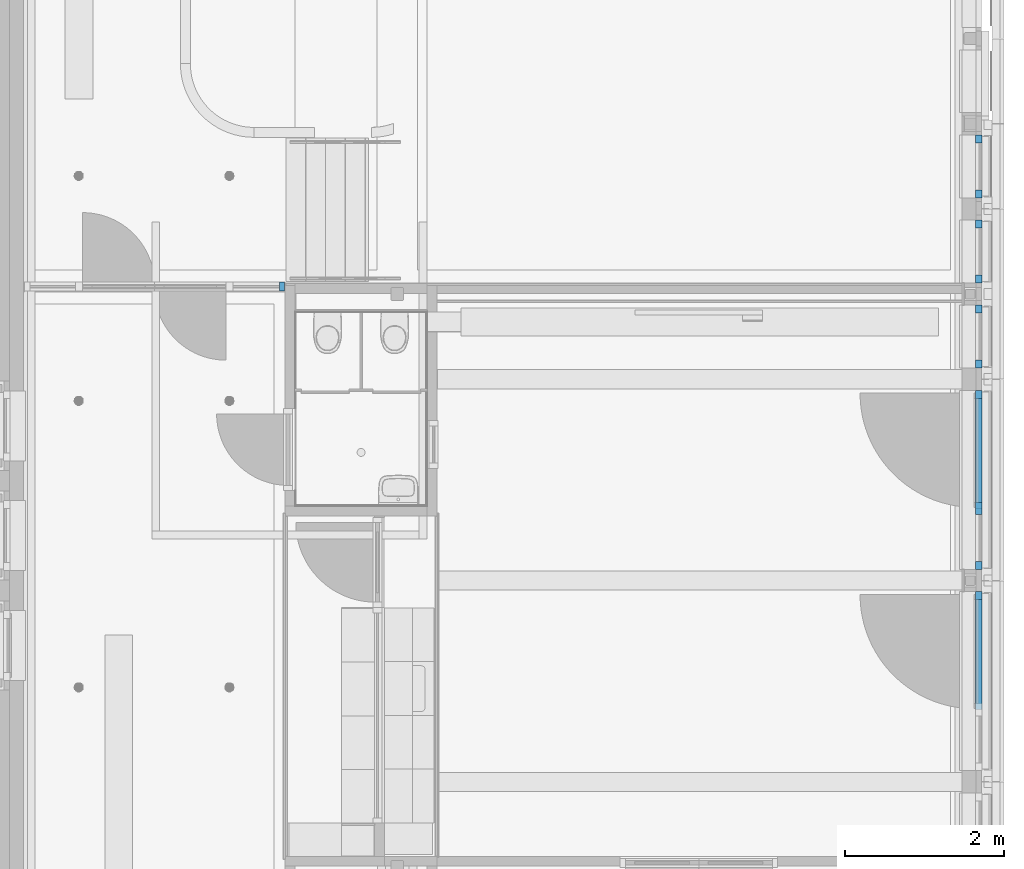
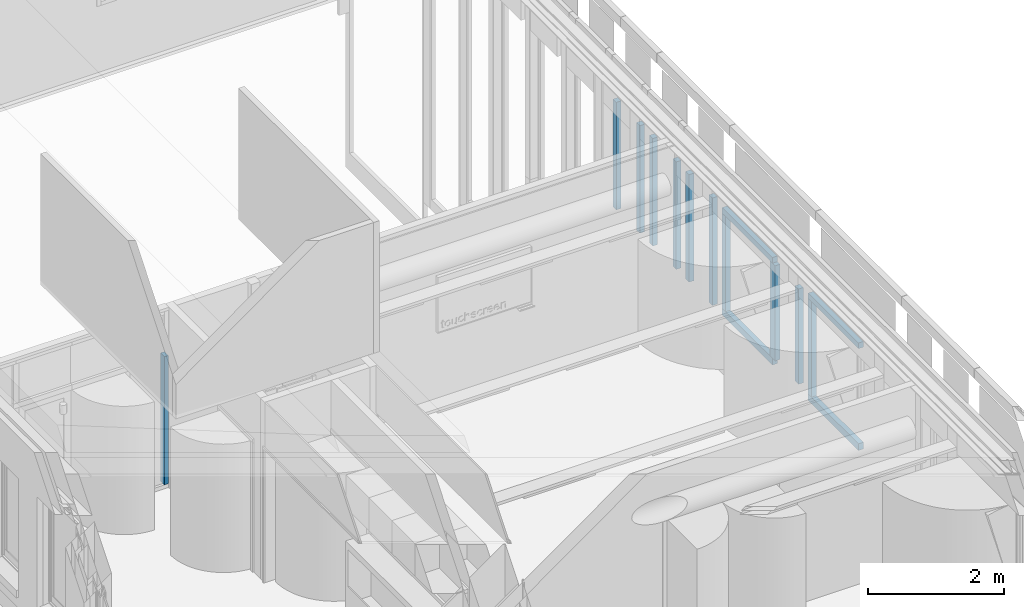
# One storey, part 12 of 128: 15 members, 6 elements without a shape of their own.
"""IFC2X3 building model written with IfcOpenShell, lengths in millimetres."""

from ifc_helpers import new_model, entity, si_unit, converted_unit, derived_unit, direction, frame, origin, origin_2d_with_axis, place, context, subcontext, project, spatial, rectangle, extrude, source, transform, mapped, material, type_object, type_shapes, element, aggregate, save


model = new_model("IFC2X3")

# Units and contexts
model_context = context("Model", 3, precision=0.01, world=origin(), true_north=direction((6.123031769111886e-17, 1.0)))
body_context = subcontext(model_context, "Body", "Model", "MODEL_VIEW")
ifc_project = project(units=[si_unit("LENGTHUNIT", "METRE", prefix="MILLI"), si_unit("AREAUNIT", "SQUARE_METRE"), si_unit("VOLUMEUNIT", "CUBIC_METRE"), converted_unit("PLANEANGLEUNIT", "DEGREE", entity("IfcRatioMeasure", 0.017453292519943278), si_unit("PLANEANGLEUNIT", "RADIAN"), dimensions=[0, 0, 0, 0, 0, 0, 0]), si_unit("MASSUNIT", "GRAM", prefix="KILO"), derived_unit("MASSDENSITYUNIT", [(si_unit("MASSUNIT", "GRAM", prefix="KILO"), 1), (si_unit("LENGTHUNIT", "METRE"), -3)]), derived_unit("IONCONCENTRATIONUNIT", [(si_unit("MASSUNIT", "GRAM", prefix="KILO"), 1), (si_unit("LENGTHUNIT", "METRE"), -3)]), derived_unit("MOMENTOFINERTIAUNIT", [(si_unit("LENGTHUNIT", "METRE"), 4)]), si_unit("TIMEUNIT", "SECOND"), si_unit("FREQUENCYUNIT", "HERTZ"), si_unit("THERMODYNAMICTEMPERATUREUNIT", "DEGREE_CELSIUS"), derived_unit("THERMALTRANSMITTANCEUNIT", [(si_unit("MASSUNIT", "GRAM", prefix="KILO"), 1), (si_unit("THERMODYNAMICTEMPERATUREUNIT", "KELVIN"), -1), (si_unit("TIMEUNIT", "SECOND"), -3)]), derived_unit("THERMALCONDUCTANCEUNIT", [(si_unit("MASSUNIT", "GRAM", prefix="KILO"), 1), (si_unit("THERMODYNAMICTEMPERATUREUNIT", "KELVIN"), -1), (si_unit("TIMEUNIT", "SECOND"), -3), (si_unit("LENGTHUNIT", "METRE"), 1)]), derived_unit("VOLUMETRICFLOWRATEUNIT", [(si_unit("LENGTHUNIT", "METRE"), 3), (si_unit("TIMEUNIT", "SECOND"), -1)]), derived_unit("MASSFLOWRATEUNIT", [(si_unit("MASSUNIT", "GRAM", prefix="KILO"), 1), (si_unit("TIMEUNIT", "SECOND"), -1)]), derived_unit("ROTATIONALFREQUENCYUNIT", [(si_unit("TIMEUNIT", "SECOND"), -1)]), si_unit("ELECTRICCURRENTUNIT", "AMPERE"), si_unit("ELECTRICVOLTAGEUNIT", "VOLT"), si_unit("POWERUNIT", "WATT"), si_unit("FORCEUNIT", "NEWTON", prefix="KILO"), si_unit("ILLUMINANCEUNIT", "LUX"), si_unit("LUMINOUSFLUXUNIT", "LUMEN"), si_unit("LUMINOUSINTENSITYUNIT", "CANDELA"), derived_unit("USERDEFINED", [(si_unit("MASSUNIT", "GRAM", prefix="KILO"), -1), (si_unit("LENGTHUNIT", "METRE"), -2), (si_unit("TIMEUNIT", "SECOND"), 3), (si_unit("LUMINOUSFLUXUNIT", "LUMEN"), 1)]), derived_unit("USERDEFINED", [(si_unit("MASSUNIT", "GRAM", prefix="KILO"), 1), (si_unit("TIMEUNIT", "SECOND"), -3), (si_unit("LENGTHUNIT", "METRE"), 3), (si_unit("ELECTRICCURRENTUNIT", "AMPERE"), -2)]), derived_unit("SOUNDPOWERUNIT", [(si_unit("MASSUNIT", "GRAM", prefix="KILO"), 1), (si_unit("TIMEUNIT", "SECOND"), -3), (si_unit("LENGTHUNIT", "METRE"), 2)]), derived_unit("SOUNDPRESSUREUNIT", [(si_unit("MASSUNIT", "GRAM", prefix="KILO"), 1), (si_unit("LENGTHUNIT", "METRE"), -1), (si_unit("TIMEUNIT", "SECOND"), -2)]), derived_unit("LINEARVELOCITYUNIT", [(si_unit("LENGTHUNIT", "METRE"), 1), (si_unit("TIMEUNIT", "SECOND"), -1)]), si_unit("PRESSUREUNIT", "PASCAL"), derived_unit("USERDEFINED", [(si_unit("MASSUNIT", "GRAM", prefix="KILO"), 1), (si_unit("LENGTHUNIT", "METRE"), -2), (si_unit("TIMEUNIT", "SECOND"), -2)]), derived_unit("LINEARFORCEUNIT", [(si_unit("MASSUNIT", "GRAM", prefix="KILO"), 1), (si_unit("TIMEUNIT", "SECOND"), -2)]), derived_unit("PLANARFORCEUNIT", [(si_unit("MASSUNIT", "GRAM", prefix="KILO"), 1), (si_unit("LENGTHUNIT", "METRE"), -1), (si_unit("TIMEUNIT", "SECOND"), -2)]), derived_unit("SPECIFICHEATCAPACITYUNIT", [(si_unit("THERMODYNAMICTEMPERATUREUNIT", "KELVIN"), -1), (si_unit("LENGTHUNIT", "METRE"), 2), (si_unit("TIMEUNIT", "SECOND"), -2)]), derived_unit("HEATINGVALUEUNIT", [(si_unit("LENGTHUNIT", "METRE"), 2), (si_unit("TIMEUNIT", "SECOND"), -2)]), derived_unit("VAPORPERMEABILITYUNIT", [(si_unit("LENGTHUNIT", "METRE"), -1), (si_unit("TIMEUNIT", "SECOND"), 1)]), derived_unit("DYNAMICVISCOSITYUNIT", [(si_unit("MASSUNIT", "GRAM", prefix="KILO"), 1), (si_unit("TIMEUNIT", "SECOND"), -1), (si_unit("LENGTHUNIT", "METRE"), -1)]), derived_unit("THERMALEXPANSIONCOEFFICIENTUNIT", [(si_unit("THERMODYNAMICTEMPERATUREUNIT", "KELVIN"), -1)]), derived_unit("MODULUSOFELASTICITYUNIT", [(si_unit("MASSUNIT", "GRAM", prefix="KILO"), 1), (si_unit("LENGTHUNIT", "METRE"), -1), (si_unit("TIMEUNIT", "SECOND"), -2)]), derived_unit("ISOTHERMALMOISTURECAPACITYUNIT", [(si_unit("LENGTHUNIT", "METRE"), 3), (si_unit("MASSUNIT", "GRAM", prefix="KILO"), -1)]), derived_unit("MOISTUREDIFFUSIVITYUNIT", [(si_unit("TIMEUNIT", "SECOND"), -1), (si_unit("LENGTHUNIT", "METRE"), 2)])], contexts=[model_context])

# Site, building, storey
site_placement = place(None, frame((0.0, 300.0, 0.0)))
site = spatial("IfcSite", under=ifc_project, at=site_placement, Name="<Kadastrale nummers>", CompositionType="ELEMENT")
building_placement = place(site_placement, origin())
building = spatial("IfcBuilding", under=site, at=building_placement, CompositionType="ELEMENT")
storey_placement = place(building_placement, frame((0.0, 0.0, 3560.0000331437)))
storey = spatial("IfcBuildingStorey", under=building, at=storey_placement, Name="01 eerste verdieping", CompositionType="ELEMENT", Elevation=3560.0000331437)

# Curtain wall, member
curtain_wall_type_1 = type_object("IfcCurtainWallType", Name="Curtain Wall:Merk H12", PredefinedType="NOTDEFINED")
curtain_wall_1_placement = place(storey_placement, frame((0.0, 0.0, -3560.0000331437)))
curtain_wall_1 = element("IfcCurtainWall", 1, at=curtain_wall_1_placement, inside=storey, type_object=curtain_wall_type_1, Name="Curtain Wall:Merk H12", ObjectType="Curtain Wall:Merk H12")
ifc_material_1 = material(Name="ISR_HPL")
member_type_1 = type_object("IfcMemberType", Name="Rectangular Mullion:31_CWM_067x114", PredefinedType="MULLION", material=ifc_material_1)
shared_shape_1 = source(origin(), body_context, "Body", "SweptSolid", [
    extrude(rectangle(XDim=113.99999999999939, YDim=67.0, at=origin_2d_with_axis()), frame((-33.5, -57.0, -2301.0), z_axis=(0.0, 0.0, 1.0), x_axis=(0.0, -1.0, 0.0)), (0.0, 0.0, 1.0), 2301.0000000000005),
])
type_shapes(member_type_1, [shared_shape_1])
member_1_placement = place(curtain_wall_1_placement, frame((39985.0, 30936.0, 3717.0000350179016), z_axis=(0.0, 0.0, -1.0), x_axis=(1.0, 0.0, 0.0)))
member_1 = element("IfcMember", 2, at=member_1_placement, type_object=member_type_1, material=ifc_material_1, Name="Rectangular Mullion:31_CWM_067x114", ObjectType="Rectangular Mullion:31_CWM_067x114", context=body_context, shape_type="MappedRepresentation", body=[
    mapped(shared_shape_1, transform((0.0, 0.0, 0.0), scale=1.0)),
])
aggregate(curtain_wall_1, [member_1])

curtain_wall_type_2 = type_object("IfcCurtainWallType", Name="Curtain Wall:K_29", PredefinedType="NOTDEFINED")
curtain_wall_2_placement = place(storey_placement, frame((0.0, 0.0, -3560.0000331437)))
curtain_wall_2 = element("IfcCurtainWall", 3, at=curtain_wall_2_placement, inside=storey, type_object=curtain_wall_type_2, Name="Curtain Wall:K_29", ObjectType="Curtain Wall:K_29")
ifc_material_2 = material(Name="ISR_Kunststof_RAL7006")
member_type_2 = type_object("IfcMemberType", Name="Rectangular Mullion:100x83 Gealan Kubus", PredefinedType="MULLION", material=ifc_material_2)
shared_shape_2 = source(origin(), body_context, "Body", "SweptSolid", [
    extrude(rectangle(XDim=83.0, YDim=100.0, at=origin_2d_with_axis()), frame((-50.0, 41.5, -1929.9999649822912), z_axis=(0.0, 0.0, 1.0), x_axis=(0.0, -1.0, 0.0)), (0.0, 0.0, 1.0), 1929.9999649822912),
])
type_shapes(member_type_2, [shared_shape_2])
member_2_placement = place(curtain_wall_2_placement, frame((48668.0, 32900.0, 4460.000035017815), z_axis=(0.0, 0.0, -1.0), x_axis=(0.0, 1.0, 0.0)))
member_2 = element("IfcMember", 4, at=member_2_placement, type_object=member_type_2, material=ifc_material_2, Name="Rectangular Mullion:100x83 Gealan Kubus", ObjectType="Rectangular Mullion:100x83 Gealan Kubus", context=body_context, shape_type="MappedRepresentation", body=[
    mapped(shared_shape_2, transform((0.0, 0.0, 0.0), scale=1.0)),
])

curtain_wall_3_placement = place(storey_placement, frame((0.0, 0.0, -3560.0000331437)))
curtain_wall_3 = element("IfcCurtainWall", 5, at=curtain_wall_3_placement, inside=storey, type_object=curtain_wall_type_2, Name="Curtain Wall:K_29", ObjectType="Curtain Wall:K_29")
member_3_placement = place(curtain_wall_3_placement, frame((48668.0, 31830.0, 4460.000035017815), z_axis=(0.0, 0.0, -1.0), x_axis=(0.0, 1.0, 0.0)))
member_3 = element("IfcMember", 6, at=member_3_placement, type_object=member_type_2, material=ifc_material_2, Name="Rectangular Mullion:100x83 Gealan Kubus", ObjectType="Rectangular Mullion:100x83 Gealan Kubus", context=body_context, shape_type="MappedRepresentation", body=[
    mapped(shared_shape_2, transform((0.0, 0.0, 0.0), scale=1.0)),
])

curtain_wall_4_placement = place(storey_placement, frame((0.0, 0.0, -3560.0000331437)))
curtain_wall_4 = element("IfcCurtainWall", 7, at=curtain_wall_4_placement, inside=storey, type_object=curtain_wall_type_2, Name="Curtain Wall:K_29", ObjectType="Curtain Wall:K_29")
member_4_placement = place(curtain_wall_4_placement, frame((48668.0, 30760.0, 4460.000035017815), z_axis=(0.0, 0.0, -1.0), x_axis=(0.0, 1.0, 0.0)))
member_4 = element("IfcMember", 8, at=member_4_placement, type_object=member_type_2, material=ifc_material_2, Name="Rectangular Mullion:100x83 Gealan Kubus", ObjectType="Rectangular Mullion:100x83 Gealan Kubus", context=body_context, shape_type="MappedRepresentation", body=[
    mapped(shared_shape_2, transform((0.0, 0.0, 0.0), scale=1.0)),
])

# Member
member_type_3 = type_object("IfcMemberType", Name="Rectangular Mullion:100x83 Gealan Kubus", PredefinedType="MULLION", material=ifc_material_2)
shared_shape_3 = source(origin(), body_context, "Body", "SweptSolid", [
    extrude(rectangle(XDim=83.0, YDim=100.0, at=origin_2d_with_axis()), frame((-50.0, 41.5, -1929.9999649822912), z_axis=(0.0, 0.0, 1.0), x_axis=(0.0, -1.0, 0.0)), (0.0, 0.0, 1.0), 1929.9999649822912),
])
type_shapes(member_type_3, [shared_shape_3])
member_5_placement = place(curtain_wall_2_placement, frame((48668.0, 32110.0, 6390.0), z_axis=(0.0, 0.0, 1.0), x_axis=(0.0, -1.0, 0.0)))
member_5 = element("IfcMember", 9, at=member_5_placement, type_object=member_type_3, material=ifc_material_2, Name="Rectangular Mullion:100x83 Gealan Kubus", ObjectType="Rectangular Mullion:100x83 Gealan Kubus", context=body_context, shape_type="MappedRepresentation", body=[
    mapped(shared_shape_3, transform((0.0, 0.0, 0.0), scale=1.0)),
])

aggregate(curtain_wall_2, [member_2, member_5])

member_6_placement = place(curtain_wall_3_placement, frame((48668.0, 31040.0, 6390.0), z_axis=(0.0, 0.0, 1.0), x_axis=(0.0, -1.0, 0.0)))
member_6 = element("IfcMember", 10, at=member_6_placement, type_object=member_type_3, material=ifc_material_2, Name="Rectangular Mullion:100x83 Gealan Kubus", ObjectType="Rectangular Mullion:100x83 Gealan Kubus", context=body_context, shape_type="MappedRepresentation", body=[
    mapped(shared_shape_3, transform((0.0, 0.0, 0.0), scale=1.0)),
])

aggregate(curtain_wall_3, [member_3, member_6])

member_7_placement = place(curtain_wall_4_placement, frame((48668.0, 29970.0, 6390.0), z_axis=(0.0, 0.0, 1.0), x_axis=(0.0, -1.0, 0.0)))
member_7 = element("IfcMember", 11, at=member_7_placement, type_object=member_type_3, material=ifc_material_2, Name="Rectangular Mullion:100x83 Gealan Kubus", ObjectType="Rectangular Mullion:100x83 Gealan Kubus", context=body_context, shape_type="MappedRepresentation", body=[
    mapped(shared_shape_3, transform((0.0, 0.0, 0.0), scale=1.0)),
])

aggregate(curtain_wall_4, [member_4, member_7])

# Curtain wall, member
curtain_wall_type_3 = type_object("IfcCurtainWallType", Name="Curtain Wall:K_22", PredefinedType="NOTDEFINED")
curtain_wall_5_placement = place(storey_placement, frame((0.0, 0.0, -3560.0000331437)))
curtain_wall_5 = element("IfcCurtainWall", 12, at=curtain_wall_5_placement, inside=storey, type_object=curtain_wall_type_3, Name="Curtain Wall:K_22", ObjectType="Curtain Wall:K_22")
member_type_4 = type_object("IfcMemberType", Name="Rectangular Mullion:100x83 Gealan Kubus", PredefinedType="MULLION", material=ifc_material_2)
shared_shape_4 = source(origin(), body_context, "Body", "SweptSolid", [
    extrude(rectangle(XDim=83.0, YDim=100.0, at=origin_2d_with_axis()), frame((-50.0, 41.5, -1483.0), z_axis=(0.0, 0.0, 1.0), x_axis=(0.0, -1.0, 0.0)), (0.0, 0.0, 1.0), 1483.0000000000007),
])
type_shapes(member_type_4, [shared_shape_4])
member_8_placement = place(curtain_wall_5_placement, frame((48668.0, 29690.0, 6390.0), z_axis=(0.0, 1.0, 0.0), x_axis=(0.0, 0.0, 1.0)))
member_8 = element("IfcMember", 13, at=member_8_placement, type_object=member_type_4, material=ifc_material_2, Name="Rectangular Mullion:100x83 Gealan Kubus", ObjectType="Rectangular Mullion:100x83 Gealan Kubus", context=body_context, shape_type="MappedRepresentation", body=[
    mapped(shared_shape_4, transform((0.0, 0.0, 0.0), scale=1.0)),
])

curtain_wall_6_placement = place(storey_placement, frame((0.0, 0.0, -3560.0000331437)))
curtain_wall_6 = element("IfcCurtainWall", 14, at=curtain_wall_6_placement, inside=storey, type_object=curtain_wall_type_3, Name="Curtain Wall:K_22", ObjectType="Curtain Wall:K_22")
member_9_placement = place(curtain_wall_6_placement, frame((48668.0, 27160.0, 6390.0), z_axis=(0.0, 1.0, 0.0), x_axis=(0.0, 0.0, 1.0)))
member_9 = element("IfcMember", 15, at=member_9_placement, type_object=member_type_4, material=ifc_material_2, Name="Rectangular Mullion:100x83 Gealan Kubus", ObjectType="Rectangular Mullion:100x83 Gealan Kubus", context=body_context, shape_type="MappedRepresentation", body=[
    mapped(shared_shape_4, transform((0.0, 0.0, 0.0), scale=1.0)),
])

# Member
member_type_5 = type_object("IfcMemberType", Name="Rectangular Mullion:100x83 Gealan Kubus", PredefinedType="MULLION", material=ifc_material_2)
shared_shape_5 = source(origin(), body_context, "Body", "SweptSolid", [
    extrude(rectangle(XDim=82.99999999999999, YDim=100.0, at=origin_2d_with_axis()), frame((-50.0, 41.49999999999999, -1709.9999649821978), z_axis=(0.0, 0.0, 1.0), x_axis=(0.0, -1.0, 0.0)), (0.0, 0.0, 1.0), 1709.9999649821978),
])
type_shapes(member_type_5, [shared_shape_5])
member_10_placement = place(curtain_wall_5_placement, frame((48668.0, 29690.0, 4580.0000331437), z_axis=(0.0, 0.0, -1.0), x_axis=(0.0, 1.0, 0.0)))
member_10 = element("IfcMember", 16, at=member_10_placement, type_object=member_type_5, material=ifc_material_2, Name="Rectangular Mullion:100x83 Gealan Kubus", ObjectType="Rectangular Mullion:100x83 Gealan Kubus", context=body_context, shape_type="MappedRepresentation", body=[
    mapped(shared_shape_5, transform((0.0, 0.0, 0.0), scale=1.0)),
])

member_11_placement = place(curtain_wall_6_placement, frame((48668.0, 27160.0, 4580.0000331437), z_axis=(0.0, 0.0, -1.0), x_axis=(0.0, 1.0, 0.0)))
member_11 = element("IfcMember", 17, at=member_11_placement, type_object=member_type_5, material=ifc_material_2, Name="Rectangular Mullion:100x83 Gealan Kubus", ObjectType="Rectangular Mullion:100x83 Gealan Kubus", context=body_context, shape_type="MappedRepresentation", body=[
    mapped(shared_shape_5, transform((0.0, 0.0, 0.0), scale=1.0)),
])

member_type_6 = type_object("IfcMemberType", Name="Rectangular Mullion:100x83 Gealan Kubus", PredefinedType="MULLION", material=ifc_material_2)
shared_shape_6 = source(origin(), body_context, "Body", "SweptSolid", [
    extrude(rectangle(XDim=83.00000000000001, YDim=100.0, at=origin_2d_with_axis()), frame((-50.0, 41.50000000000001, -1709.9999649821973), z_axis=(0.0, 0.0, 1.0), x_axis=(0.0, -1.0, 0.0)), (0.0, 0.0, 1.0), 1709.9999649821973),
])
type_shapes(member_type_6, [shared_shape_6])
member_12_placement = place(curtain_wall_5_placement, frame((48668.0, 27440.0, 6290.0), z_axis=(0.0, 0.0, 1.0), x_axis=(0.0, -1.0, 0.0)))
member_12 = element("IfcMember", 18, at=member_12_placement, type_object=member_type_6, material=ifc_material_2, Name="Rectangular Mullion:100x83 Gealan Kubus", ObjectType="Rectangular Mullion:100x83 Gealan Kubus", context=body_context, shape_type="MappedRepresentation", body=[
    mapped(shared_shape_6, transform((0.0, 0.0, 0.0), scale=1.0)),
])

member_type_7 = type_object("IfcMemberType", Name="Rectangular Mullion:120x83 Gealan Kubus", PredefinedType="MULLION", material=ifc_material_2)
shared_shape_7 = source(origin(), body_context, "Body", "SweptSolid", [
    extrude(rectangle(XDim=83.00000000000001, YDim=120.0, at=origin_2d_with_axis()), frame((-60.0, 41.50000000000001, -1483.0), z_axis=(0.0, 0.0, 1.0), x_axis=(0.0, -1.0, 0.0)), (0.0, 0.0, 1.0), 1483.0000000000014),
])
type_shapes(member_type_7, [shared_shape_7])
member_13_placement = place(curtain_wall_5_placement, frame((48668.0, 28207.0, 4460.000035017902), z_axis=(0.0, -1.0, 0.0), x_axis=(0.0, 0.0, -1.0)))
member_13 = element("IfcMember", 19, at=member_13_placement, type_object=member_type_7, material=ifc_material_2, Name="Rectangular Mullion:120x83 Gealan Kubus", ObjectType="Rectangular Mullion:120x83 Gealan Kubus", context=body_context, shape_type="MappedRepresentation", body=[
    mapped(shared_shape_7, transform((0.0, 0.0, 0.0), scale=1.0)),
])

member_14_placement = place(curtain_wall_6_placement, frame((48668.0, 25677.0, 4460.000035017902), z_axis=(0.0, -1.0, 0.0), x_axis=(0.0, 0.0, -1.0)))
member_14 = element("IfcMember", 20, at=member_14_placement, type_object=member_type_7, material=ifc_material_2, Name="Rectangular Mullion:120x83 Gealan Kubus", ObjectType="Rectangular Mullion:120x83 Gealan Kubus", context=body_context, shape_type="MappedRepresentation", body=[
    mapped(shared_shape_7, transform((0.0, 0.0, 0.0), scale=1.0)),
])

aggregate(curtain_wall_6, [member_9, member_11, member_14])

member_type_8 = type_object("IfcMemberType", Name="Rectangular Mullion:154x83 Gealan Kubus", PredefinedType="MULLION", material=ifc_material_2)
shared_shape_8 = source(origin(), body_context, "Body", "SweptSolid", [
    extrude(rectangle(XDim=83.00000000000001, YDim=154.0, at=origin_2d_with_axis()), frame((0.0, 41.50000000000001, -1710.0), z_axis=(0.0, 0.0, 1.0), x_axis=(0.0, -1.0, 0.0)), (0.0, 0.0, 1.0), 1710.0000000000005),
])
type_shapes(member_type_8, [shared_shape_8])
member_15_placement = place(curtain_wall_5_placement, frame((48668.0, 28207.0, 4580.0000331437), z_axis=(0.0, 0.0, -1.0), x_axis=(0.0, 1.0, 0.0)))
member_15 = element("IfcMember", 21, at=member_15_placement, type_object=member_type_8, material=ifc_material_2, Name="Rectangular Mullion:154x83 Gealan Kubus", ObjectType="Rectangular Mullion:154x83 Gealan Kubus", context=body_context, shape_type="MappedRepresentation", body=[
    mapped(shared_shape_8, transform((0.0, 0.0, 0.0), scale=1.0)),
])

aggregate(curtain_wall_5, [member_8, member_10, member_12, member_13, member_15])

save(model, "model.ifc")
